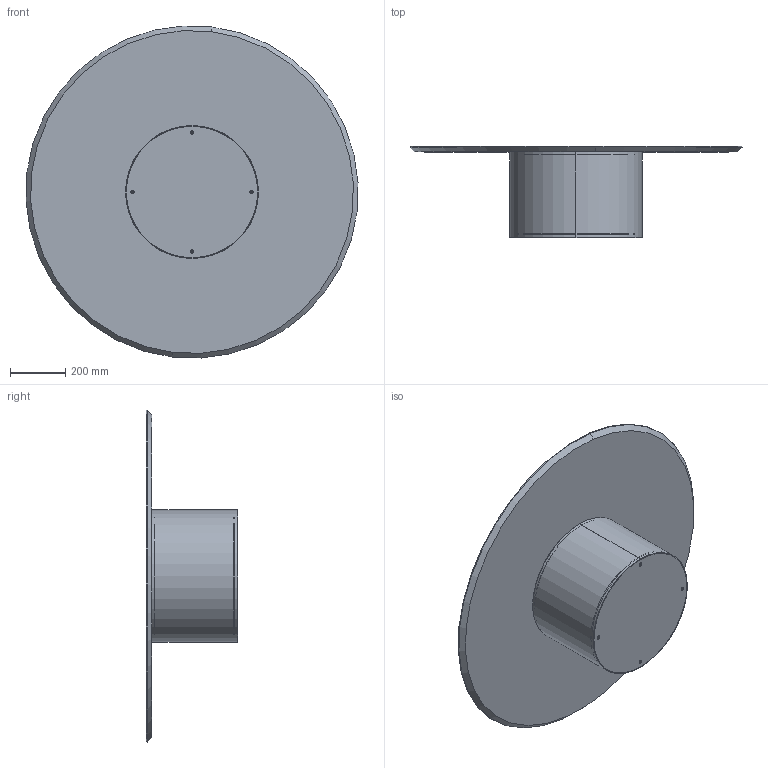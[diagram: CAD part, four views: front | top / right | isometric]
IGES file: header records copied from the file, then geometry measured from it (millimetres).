
Start section: SolidWorks IGES file using analytic representation for surfaces
Global section: file name: Y:\eforma\TECNICO\SOLIDWORKS\E-FORMA\2-TAVOLINI\CILINDRO LOW\02 parts\CL14W.IGS; native system: SolidWorks 2022; preprocessor: SolidWorks 2022; author: eforma.tech; date: 240806.121652; units: millimetre
Bounding box: 1198.22 x 330 x 1198.22 mm (x, y, z)
Volume: 25297234.8 mm3; surface area: 3887362.1 mm2
Topology: 11 solids, 11 shells, 237 faces, 513 edges, 290 vertices
Faces by surface type: revolution 127, plane 108, bspline 2
